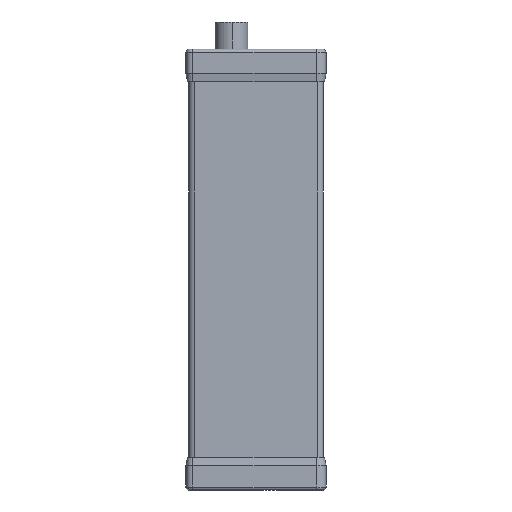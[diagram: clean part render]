
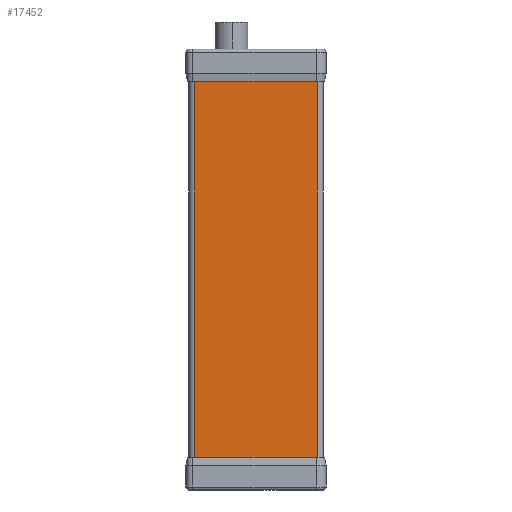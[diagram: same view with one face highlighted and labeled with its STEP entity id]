
A CAD part, left-side view. The second image highlights one B-rep face of the part: STEP entity #17452.
In plain terms, the highlighted planar face has unit normal (-1, 0, 0).
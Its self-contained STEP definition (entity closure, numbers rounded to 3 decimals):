
#7616 = FACE_OUTER_BOUND ( 'NONE', #17453, .T. ) ;
#7661 = DIRECTION ( 'NONE',  ( 0., -1., 0. ) ) ;
#7662 = DIRECTION ( 'NONE',  ( -1., 0., 0. ) ) ;
#7663 = CARTESIAN_POINT ( 'NONE',  ( -21.191, -50.274, 10. ) ) ;
#7664 = AXIS2_PLACEMENT_3D ( 'NONE', #7663, #7662, #7661 ) ;
#7665 = PLANE ( 'NONE',  #7664 ) ;
#7839 = DIRECTION ( 'NONE',  ( 0., 0., -1. ) ) ;
#7840 = VECTOR ( 'NONE', #7839, 1000. ) ;
#7841 = CARTESIAN_POINT ( 'NONE',  ( -21.191, 23.438, 10. ) ) ;
#7842 = LINE ( 'NONE', #7841, #7840 ) ;
#7844 = CARTESIAN_POINT ( 'NONE',  ( -21.191, 23.438, 10. ) ) ;
#7845 = DIRECTION ( 'NONE',  ( 0., 1., 0. ) ) ;
#7846 = VECTOR ( 'NONE', #7845, 1000. ) ;
#7847 = CARTESIAN_POINT ( 'NONE',  ( -21.191, -50.274, 10. ) ) ;
#7848 = LINE ( 'NONE', #7847, #7846 ) ;
#7849 = CARTESIAN_POINT ( 'NONE',  ( -21.191, -17.562, 10. ) ) ;
#7850 = DIRECTION ( 'NONE',  ( 0., 0., 1. ) ) ;
#7851 = VECTOR ( 'NONE', #7850, 1000. ) ;
#7852 = CARTESIAN_POINT ( 'NONE',  ( -21.191, -17.562, 10. ) ) ;
#7853 = LINE ( 'NONE', #7852, #7851 ) ;
#7854 = CARTESIAN_POINT ( 'NONE',  ( -21.191, 23.438, -120. ) ) ;
#7855 = CARTESIAN_POINT ( 'NONE',  ( -21.191, -17.562, -120. ) ) ;
#7856 = DIRECTION ( 'NONE',  ( 0., 1., 0. ) ) ;
#7857 = VECTOR ( 'NONE', #7856, 1000. ) ;
#7858 = CARTESIAN_POINT ( 'NONE',  ( -21.191, -50.274, -120. ) ) ;
#7859 = LINE ( 'NONE', #7858, #7857 ) ;
#17452 = ADVANCED_FACE ( 'NONE', ( #7616 ), #7665, .T. ) ;
#17453 = EDGE_LOOP ( 'NONE', ( #17511, #17515, #17518, #17521 ) ) ;
#17511 = ORIENTED_EDGE ( 'NONE', *, *, #17512, .F. ) ;
#17512 = EDGE_CURVE ( 'NONE', #17513, #17514, #7859, .T. ) ;
#17513 = VERTEX_POINT ( 'NONE', #7855 ) ;
#17514 = VERTEX_POINT ( 'NONE', #7854 ) ;
#17515 = ORIENTED_EDGE ( 'NONE', *, *, #17516, .T. ) ;
#17516 = EDGE_CURVE ( 'NONE', #17513, #17517, #7853, .T. ) ;
#17517 = VERTEX_POINT ( 'NONE', #7849 ) ;
#17518 = ORIENTED_EDGE ( 'NONE', *, *, #17519, .T. ) ;
#17519 = EDGE_CURVE ( 'NONE', #17517, #17520, #7848, .T. ) ;
#17520 = VERTEX_POINT ( 'NONE', #7844 ) ;
#17521 = ORIENTED_EDGE ( 'NONE', *, *, #17522, .T. ) ;
#17522 = EDGE_CURVE ( 'NONE', #17520, #17514, #7842, .T. ) ;
